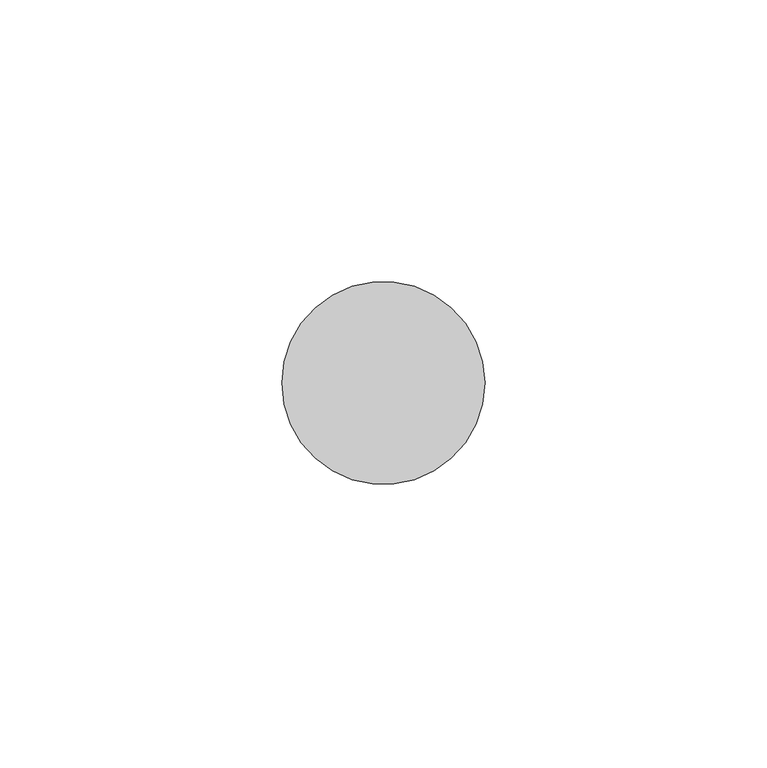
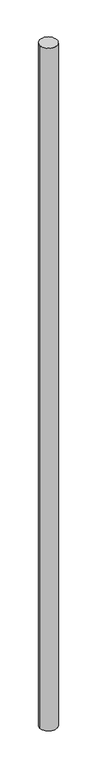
"""IFC4 building model written with IfcOpenShell, lengths in millimetres: proxy geometry, Loudspeaker Stand : Loudspeaker Stand."""

from ifc_helpers import new_model, si_unit, point, origin, origin_with_axes, origin_2d, place, context, project, spatial, circle_curve, trimmed, segment, composite_curve, outline, extrude, source, transform, mapped, element, save


def communication_devices_ca37ca75(model_context):
    return source(origin(), model_context, "Body", "SweptSolid", [
        extrude(outline(composite_curve([segment(trimmed(circle_curve(origin_2d(), 18.0023956), [point((-18.0023956, 0.0))], [point((18.0023956, 0.0))], False, "CARTESIAN"), True, "CONTINUOUS"), segment(trimmed(circle_curve(origin_2d(), 18.0023956), [point((18.0023956, 0.0))], [point((-18.0023956, 0.0))], False, "CARTESIAN"), True, "CONTINUOUS")], self_intersect=False)), origin_with_axes(), (0.0, 0.0, 1.0), 1500.0),
    ])


if __name__ == "__main__":
    model = new_model("IFC4")
    model_context = context("Model", 3, world=origin())
    ifc_project = project(units=[si_unit("LENGTHUNIT", "METRE", prefix="MILLI")], contexts=[model_context])
    site = spatial("IfcSite", under=ifc_project)
    building = spatial("IfcBuilding", under=site)
    placement = place(None, origin())
    communication_devices_shape = communication_devices_ca37ca75(model_context)
    element("IfcBuildingElementProxy", 1, Name="Loudspeaker Stand : Loudspeaker Stand", ObjectType="Loudspeaker Stand : Loudspeaker Stand", at=placement, inside=building, context=model_context, shape_type="MappedRepresentation", body=[
        mapped(communication_devices_shape, transform((0.0, 0.0, 0.0), x_axis=(1.0, 0.0, 0.0), y_axis=(0.0, 1.0, 0.0), z_axis=(0.0, 0.0, 1.0))),
    ])
    save(model, "model.ifc")
